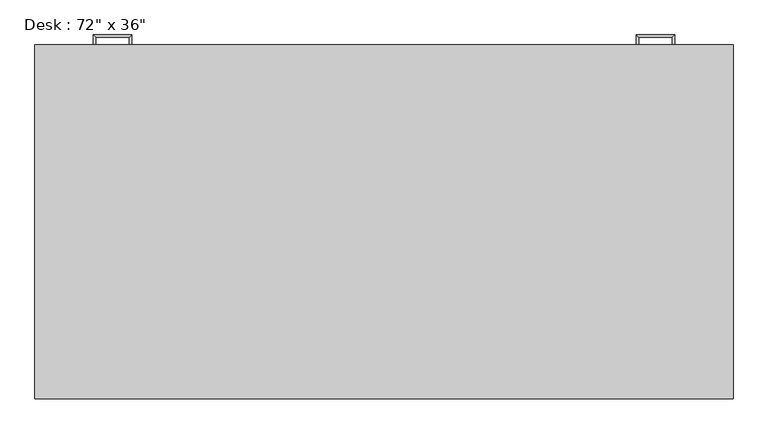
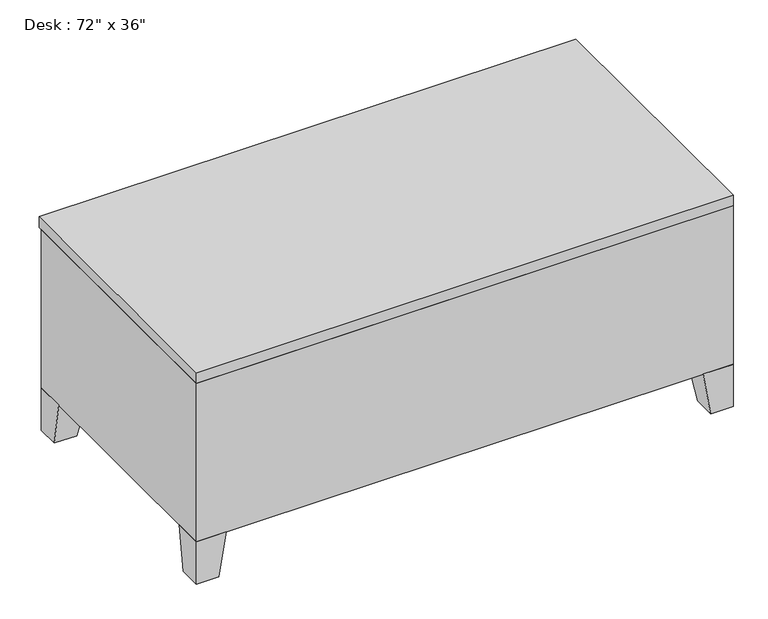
"""IFC4 building model written with IfcOpenShell, lengths in millimetres: furniture geometry."""

from ifc_helpers import new_model, si_unit, frame, origin, place, context, project, spatial, polyline, outline, extrude, faceted_brep, source, transform, mapped, element, save


def furniture_65204735(model_context):
    return source(origin(), model_context, "Body", "SolidModel", [
        extrude(outline(polyline([(-133.35, 76.2), (-133.35, 88.9), (234.95, 88.9), (234.95, 76.2), (-133.35, 76.2)])), frame((0.0, 0.0, 603.25), z_axis=(0.0, 0.0, 1.0), x_axis=(1.0, 0.0, 0.0)), (0.0, 0.0, 1.0), 101.6),
        extrude(outline(polyline([(-133.35, 76.2), (-133.35, 88.9), (234.95, 88.9), (234.95, 76.2), (-133.35, 76.2)])), frame((0.0, 0.0, 171.45), z_axis=(0.0, 0.0, 1.0), x_axis=(1.0, 0.0, 0.0)), (0.0, 0.0, 1.0), 412.75),
        extrude(outline(polyline([(1289.05, 76.2), (1289.05, 88.9), (1657.35, 88.9), (1657.35, 76.2), (1289.05, 76.2)])), frame((0.0, 0.0, 603.25), z_axis=(0.0, 0.0, 1.0), x_axis=(1.0, 0.0, 0.0)), (0.0, 0.0, 1.0), 101.6),
        extrude(outline(polyline([(1289.05, 76.2), (1289.05, 88.9), (1657.35, 88.9), (1657.35, 76.2), (1289.05, 76.2)])), frame((0.0, 0.0, 171.45), z_axis=(0.0, 0.0, 1.0), x_axis=(1.0, 0.0, 0.0)), (0.0, 0.0, 1.0), 171.45),
        extrude(outline(polyline([(1289.05, 76.2), (1289.05, 88.9), (1657.35, 88.9), (1657.35, 76.2), (1289.05, 76.2)])), frame((0.0, 0.0, 482.6), z_axis=(0.0, 0.0, 1.0), x_axis=(1.0, 0.0, 0.0)), (0.0, 0.0, 1.0), 101.6),
        extrude(outline(polyline([(1289.05, 76.2), (1289.05, 88.9), (1657.35, 88.9), (1657.35, 76.2), (1289.05, 76.2)])), frame((0.0, 0.0, 361.95), z_axis=(0.0, 0.0, 1.0), x_axis=(1.0, 0.0, 0.0)), (0.0, 0.0, 1.0), 101.6),
        faceted_brep([(-50.8, 76.2, 152.4), (-152.4, 76.2, 152.4), (-152.4, -25.4, 152.4), (-50.8, -25.4, 152.4), (-76.2, 76.2, 0.0), (-76.2, 0.0, 0.0), (-152.4, 0.0, 0.0), (-152.4, 76.2, 0.0)], [[[0, 1, 2, 3]], [[4, 5, 6, 7]], [[4, 0, 3, 5]], [[5, 3, 2, 6]], [[6, 2, 1, 7]], [[7, 1, 0, 4]]]),
        faceted_brep([(-50.8, -838.2, 152.4), (-50.8, -736.6, 152.4), (-152.4, -736.6, 152.4), (-152.4, -838.2, 152.4), (-76.2, -838.2, 0.0), (-152.4, -838.2, 0.0), (-152.4, -762.0, 0.0), (-76.2, -762.0, 0.0)], [[[0, 1, 2, 3]], [[4, 5, 6, 7]], [[4, 0, 3, 5]], [[5, 3, 2, 6]], [[6, 2, 1, 7]], [[7, 1, 0, 4]]]),
        faceted_brep([(1574.8, -838.2, 152.4), (1676.4, -838.2, 152.4), (1676.4, -736.6, 152.4), (1574.8, -736.6, 152.4), (1600.2, -838.2, 0.0), (1600.2, -762.0, 0.0), (1676.4, -762.0, 0.0), (1676.4, -838.2, 0.0)], [[[0, 1, 2, 3]], [[4, 5, 6, 7]], [[4, 0, 3, 5]], [[5, 3, 2, 6]], [[6, 2, 1, 7]], [[7, 1, 0, 4]]]),
        faceted_brep([(1574.8, 76.2, 152.4), (1574.8, -25.4, 152.4), (1676.4, -25.4, 152.4), (1676.4, 76.2, 152.4), (1600.2, 76.2, 0.0), (1676.4, 76.2, 0.0), (1676.4, 0.0, 0.0), (1600.2, 0.0, 0.0)], [[[0, 1, 2, 3]], [[4, 5, 6, 7]], [[4, 0, 3, 5]], [[5, 3, 2, 6]], [[6, 2, 1, 7]], [[7, 1, 0, 4]]]),
        extrude(outline(polyline([(-152.4, 88.9), (1676.4, 88.9), (1676.4, -838.2), (-152.4, -838.2), (-152.4, 88.9)])), frame((0.0, 0.0, 723.9), z_axis=(0.0, 0.0, 1.0), x_axis=(1.0, 0.0, 0.0)), (0.0, 0.0, 1.0), 38.1),
        extrude(outline(polyline([(1270.0, 76.2), (1676.4, 76.2), (1676.4, -838.2), (-152.4, -838.2), (-152.4, 76.2), (254.0, 76.2), (254.0, -711.2), (1270.0, -711.2), (1270.0, 76.2)])), frame((0.0, 0.0, 152.4), z_axis=(0.0, 0.0, 1.0), x_axis=(1.0, 0.0, 0.0)), (0.0, 0.0, 1.0), 571.5),
        faceted_brep([(6.35, 88.9, 546.1), (0.0, 88.9, 546.1), (0.0, 88.9, 533.4), (6.35, 88.9, 533.4), (6.35, 107.95, 533.4), (6.35, 107.95, 546.1), (0.0, 114.3, 533.4), (0.0, 114.3, 546.1), (95.25, 107.95, 533.4), (95.25, 107.95, 546.1), (101.6, 114.3, 533.4), (101.6, 114.3, 546.1), (95.25, 88.9, 546.1), (95.25, 88.9, 533.4), (101.6, 88.9, 533.4), (101.6, 88.9, 546.1)], [[[0, 1, 2, 3]], [[3, 4, 5, 0]], [[2, 6, 4, 3]], [[1, 7, 6, 2]], [[0, 5, 7, 1]], [[4, 8, 9, 5]], [[6, 10, 8, 4]], [[7, 11, 10, 6]], [[5, 9, 11, 7]], [[12, 13, 14, 15]], [[8, 13, 12, 9]], [[10, 14, 13, 8]], [[11, 15, 14, 10]], [[9, 12, 15, 11]]]),
        faceted_brep([(6.35, 88.9, 666.75), (0.0, 88.9, 666.75), (0.0, 88.9, 654.05), (6.35, 88.9, 654.05), (6.35, 107.95, 654.05), (6.35, 107.95, 666.75), (0.0, 114.3, 654.05), (0.0, 114.3, 666.75), (95.25, 107.95, 654.05), (95.25, 107.95, 666.75), (101.6, 114.3, 654.05), (101.6, 114.3, 666.75), (95.25, 88.9, 666.75), (95.25, 88.9, 654.05), (101.6, 88.9, 654.05), (101.6, 88.9, 666.75)], [[[0, 1, 2, 3]], [[3, 4, 5, 0]], [[2, 6, 4, 3]], [[1, 7, 6, 2]], [[0, 5, 7, 1]], [[4, 8, 9, 5]], [[6, 10, 8, 4]], [[7, 11, 10, 6]], [[5, 9, 11, 7]], [[12, 13, 14, 15]], [[8, 13, 12, 9]], [[10, 14, 13, 8]], [[11, 15, 14, 10]], [[9, 12, 15, 11]]]),
        faceted_brep([(1517.65, 88.9, 304.8), (1517.65, 88.9, 292.1), (1524.0, 88.9, 292.1), (1524.0, 88.9, 304.8), (1524.0, 114.3, 304.8), (1517.65, 107.95, 304.8), (1524.0, 114.3, 292.1), (1517.65, 107.95, 292.1), (1422.4, 114.3, 304.8), (1428.75, 107.95, 304.8), (1422.4, 114.3, 292.1), (1428.75, 107.95, 292.1), (1428.75, 88.9, 304.8), (1422.4, 88.9, 304.8), (1422.4, 88.9, 292.1), (1428.75, 88.9, 292.1)], [[[0, 1, 2, 3]], [[3, 4, 5, 0]], [[2, 6, 4, 3]], [[1, 7, 6, 2]], [[0, 5, 7, 1]], [[4, 8, 9, 5]], [[6, 10, 8, 4]], [[7, 11, 10, 6]], [[5, 9, 11, 7]], [[12, 13, 14, 15]], [[8, 13, 12, 9]], [[10, 14, 13, 8]], [[11, 15, 14, 10]], [[9, 12, 15, 11]]]),
        faceted_brep([(1517.65, 88.9, 425.45), (1517.65, 88.9, 412.75), (1524.0, 88.9, 412.75), (1524.0, 88.9, 425.45), (1524.0, 114.3, 425.45), (1517.65, 107.95, 425.45), (1524.0, 114.3, 412.75), (1517.65, 107.95, 412.75), (1422.4, 114.3, 425.45), (1428.75, 107.95, 425.45), (1422.4, 114.3, 412.75), (1428.75, 107.95, 412.75), (1428.75, 88.9, 425.45), (1422.4, 88.9, 425.45), (1422.4, 88.9, 412.75), (1428.75, 88.9, 412.75)], [[[0, 1, 2, 3]], [[3, 4, 5, 0]], [[2, 6, 4, 3]], [[1, 7, 6, 2]], [[0, 5, 7, 1]], [[4, 8, 9, 5]], [[6, 10, 8, 4]], [[7, 11, 10, 6]], [[5, 9, 11, 7]], [[12, 13, 14, 15]], [[8, 13, 12, 9]], [[10, 14, 13, 8]], [[11, 15, 14, 10]], [[9, 12, 15, 11]]]),
        faceted_brep([(1517.65, 88.9, 546.1), (1517.65, 88.9, 533.4), (1524.0, 88.9, 533.4), (1524.0, 88.9, 546.1), (1524.0, 114.3, 546.1), (1517.65, 107.95, 546.1), (1524.0, 114.3, 533.4), (1517.65, 107.95, 533.4), (1422.4, 114.3, 546.1), (1428.75, 107.95, 546.1), (1422.4, 114.3, 533.4), (1428.75, 107.95, 533.4), (1428.75, 88.9, 546.1), (1422.4, 88.9, 546.1), (1422.4, 88.9, 533.4), (1428.75, 88.9, 533.4)], [[[0, 1, 2, 3]], [[3, 4, 5, 0]], [[2, 6, 4, 3]], [[1, 7, 6, 2]], [[0, 5, 7, 1]], [[4, 8, 9, 5]], [[6, 10, 8, 4]], [[7, 11, 10, 6]], [[5, 9, 11, 7]], [[12, 13, 14, 15]], [[8, 13, 12, 9]], [[10, 14, 13, 8]], [[11, 15, 14, 10]], [[9, 12, 15, 11]]]),
        faceted_brep([(1517.65, 88.9, 666.75), (1517.65, 88.9, 654.05), (1524.0, 88.9, 654.05), (1524.0, 88.9, 666.75), (1524.0, 114.3, 666.75), (1517.65, 107.95, 666.75), (1524.0, 114.3, 654.05), (1517.65, 107.95, 654.05), (1422.4, 114.3, 666.75), (1428.75, 107.95, 666.75), (1422.4, 114.3, 654.05), (1428.75, 107.95, 654.05), (1428.75, 88.9, 666.75), (1422.4, 88.9, 666.75), (1422.4, 88.9, 654.05), (1428.75, 88.9, 654.05)], [[[0, 1, 2, 3]], [[3, 4, 5, 0]], [[2, 6, 4, 3]], [[1, 7, 6, 2]], [[0, 5, 7, 1]], [[4, 8, 9, 5]], [[6, 10, 8, 4]], [[7, 11, 10, 6]], [[5, 9, 11, 7]], [[12, 13, 14, 15]], [[8, 13, 12, 9]], [[10, 14, 13, 8]], [[11, 15, 14, 10]], [[9, 12, 15, 11]]]),
    ])


if __name__ == "__main__":
    model = new_model("IFC4")
    model_context = context("Model", 3, world=origin())
    ifc_project = project(units=[si_unit("LENGTHUNIT", "METRE", prefix="MILLI")], contexts=[model_context])
    site = spatial("IfcSite", under=ifc_project)
    building = spatial("IfcBuilding", under=site)
    placement = place(None, origin())
    furniture_shape = furniture_65204735(model_context)
    element("IfcFurniture", 1, ObjectType="Desk : 72\" x 36\"", at=placement, inside=building, context=model_context, shape_type="MappedRepresentation", body=[
        mapped(furniture_shape, transform((0.0, 0.0, 0.0), x_axis=(1.0, 0.0, 0.0), y_axis=(0.0, 1.0, 0.0), z_axis=(0.0, 0.0, 1.0))),
    ])
    save(model, "model.ifc")
